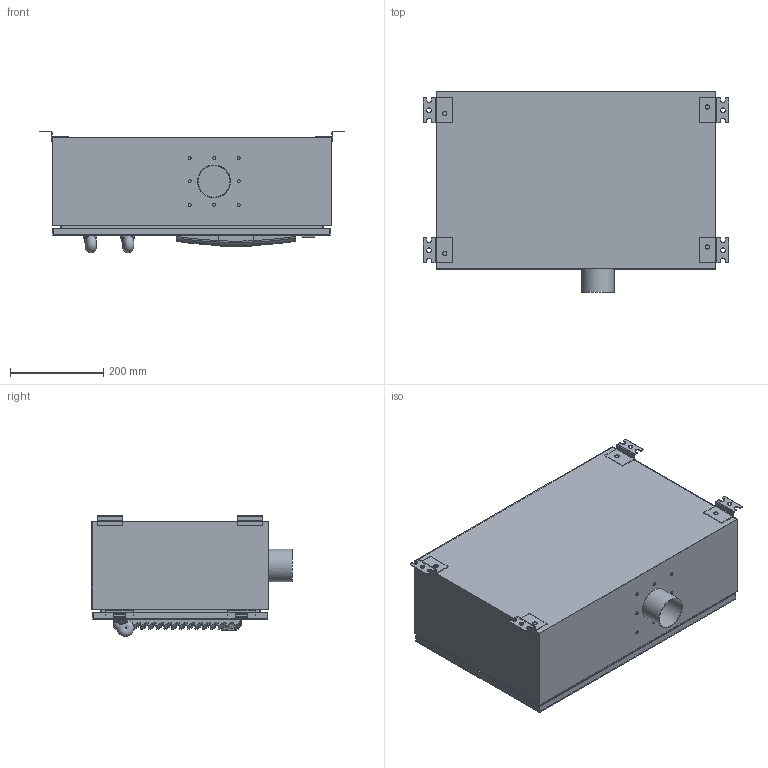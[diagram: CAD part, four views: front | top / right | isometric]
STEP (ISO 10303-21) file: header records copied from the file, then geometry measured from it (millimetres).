
FILE_DESCRIPTION(/* description */ ('Alibre Inc.'),/* implementation_level */ '2;1');
FILE_NAME(/* name */ 'export0',/* time_stamp */ '2014-02-17T10:22:18+01:00',/* author */ (''),/* organization */ (''),/* preprocessor_version */ 'ST-DEVELOPER v14',/* originating_system */ 'Alibre',/* authorisation */ '');
FILE_SCHEMA (('CONFIG_CONTROL_DESIGN'));
Length unit declared in the file: millimetre
Products named in the file (9): ID_1; ID_2; ID_3; ID_4; ID_5; ID_6; 1; AE 1009.600 (2)
Bounding box: 655.2 x 430 x 260.38 mm (x, y, z)
Volume: 3068089.2 mm3; surface area: 2454681.9 mm2
Topology: 11 solids, 11 shells, 1655 faces, 4650 edges, 3055 vertices
Faces by surface type: plane 896, cylinder 411, torus 178, cone 112, bspline 56, sphere 2
Full cylindrical faces by diameter (mm): 3 x1, 4 x4, 6.5 x8, 9 x4, 10 x4, 10.2 x4, 13.5 x1, 15.2 x7, 16 x1, 20 x1, 68 x1, 70 x1
Entity records: 78421 total; most frequent: CARTESIAN_POINT 39001, ORIENTED_EDGE 8614, DIRECTION 6755, EDGE_CURVE 4307, VERTEX_POINT 2856, AXIS2_PLACEMENT_3D 2607, VECTOR 2559, LINE 2559
